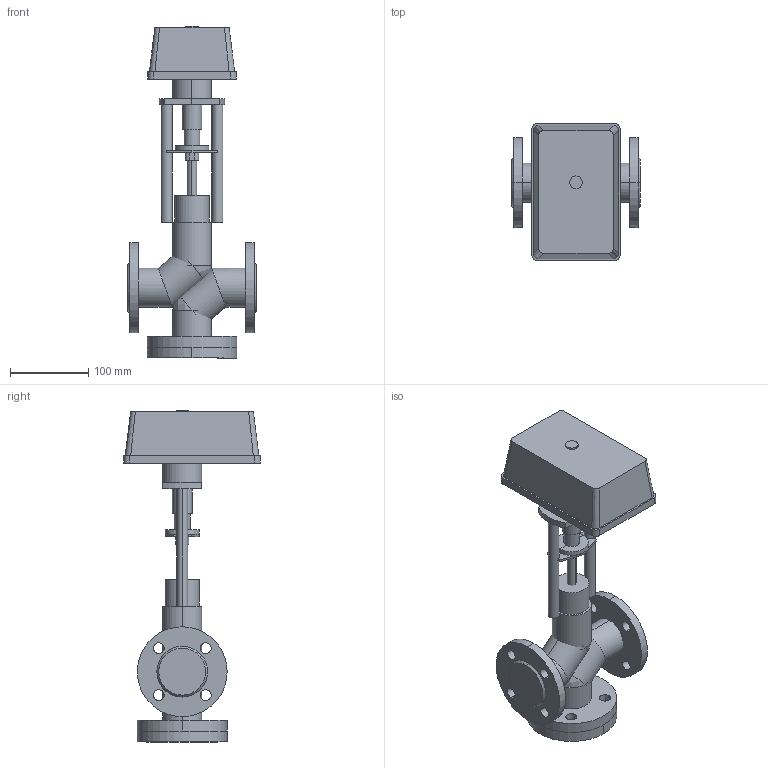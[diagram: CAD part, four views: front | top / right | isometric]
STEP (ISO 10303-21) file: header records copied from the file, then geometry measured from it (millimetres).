
FILE_DESCRIPTION(/* description */ (''),/* implementation_level */ '2;1');
FILE_NAME(/* name */ 'ТРК DN25 PN 1.6 МПа МИЭП-1 1600',/* time_stamp */ '2026-07-14T23:28:11+03:00',/* author */ (''),/* organization */ (''),/* preprocessor_version */ 'ST-DEVELOPER v20',/* originating_system */ '',/* authorisation */ '');
FILE_SCHEMA (('AP242_MANAGED_MODEL_BASED_3D_ENGINEERING_MIM_LF { 1 0 10303 442 1 1 4 }'));
Length unit declared in the file: millimetre
Products named in the file (14): TopLevelAssembly; Выдавливание; Модификатор; Модификатор_1; Выдавливание_
1; Выдавливание_
2; Вращение; Выдавливание_
3; Выдавливание_
4; 1600; Переход; Объемная геометрия 
присоединена; Полый Выдавливание; Объемная геометрия 
присоединена_1
Assembly tree (13 placements, depth 2):
  TopLevelAssembly
    Выдавливание
    Модификатор
    Модификатор_1
    Выдавливание_
1
    Выдавливание_
2
    Вращение
    Выдавливание_
3
    Выдавливание_
4
    1600
    Переход
    Объемная геометрия 
присоединена
    Полый Выдавливание
    Объемная геометрия 
присоединена_1
Bounding box: 165 x 175 x 425 mm (x, y, z)
Volume: 2486633 mm3; surface area: 350926.2 mm2
Topology: 23 solids, 23 shells, 171 faces, 357 edges, 226 vertices
Faces by surface type: cylinder 80, plane 79, bspline 8, cone 4
Entity records: 5224 total; most frequent: CARTESIAN_POINT 961, DIRECTION 909, ORIENTED_EDGE 698, AXIS2_PLACEMENT_3D 370, EDGE_CURVE 349, VERTEX_POINT 226, EDGE_LOOP 201, CIRCLE 172
